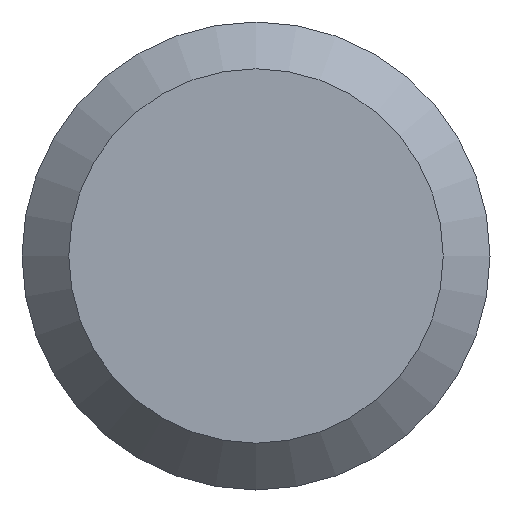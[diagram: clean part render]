
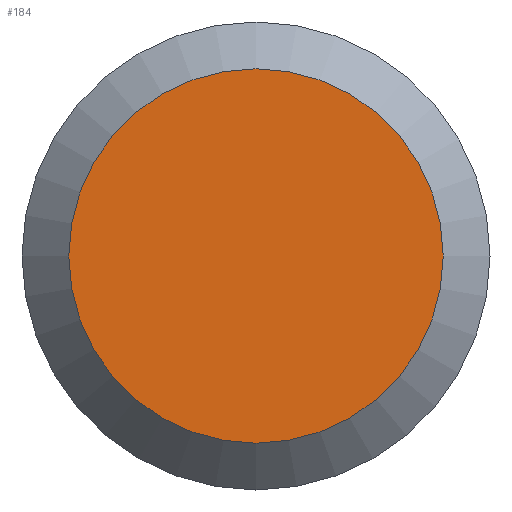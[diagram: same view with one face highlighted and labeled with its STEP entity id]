
A CAD part, left-side view. The second image highlights one B-rep face of the part: STEP entity #184.
In plain terms, the highlighted planar face has unit normal (-1, 0, 0).
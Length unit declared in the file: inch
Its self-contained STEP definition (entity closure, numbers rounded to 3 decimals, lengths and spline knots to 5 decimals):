
#37 = CARTESIAN_POINT ( 'NONE',  ( 0., 0.1285, 0. ) ) ;
#45 = FACE_OUTER_BOUND ( 'NONE', #179, .T. ) ;
#49 = DIRECTION ( 'NONE',  ( 1., 0., 0. ) ) ;
#58 = DIRECTION ( 'NONE',  ( 0., 0., -1. ) ) ;
#63 = ORIENTED_EDGE ( 'NONE', *, *, #218, .T. ) ;
#89 = AXIS2_PLACEMENT_3D ( 'NONE', #211, #107, #188 ) ;
#102 = AXIS2_PLACEMENT_3D ( 'NONE', #37, #49, #58 ) ;
#107 = DIRECTION ( 'NONE',  ( -1., 0., 0. ) ) ;
#163 = CIRCLE ( 'NONE', #89, 0.1028 ) ;
#167 = CARTESIAN_POINT ( 'NONE',  ( 0., 0., -0.1028 ) ) ;
#179 = EDGE_LOOP ( 'NONE', ( #63 ) ) ;
#184 = ADVANCED_FACE ( 'NONE', ( #45 ), #203, .F. ) ;
#188 = DIRECTION ( 'NONE',  ( 0., 0., -1. ) ) ;
#189 = VERTEX_POINT ( 'NONE', #167 ) ;
#203 = PLANE ( 'NONE',  #102 ) ;
#211 = CARTESIAN_POINT ( 'NONE',  ( 0., 0., 0. ) ) ;
#218 = EDGE_CURVE ( 'NONE', #189, #189, #163, .T. ) ;
